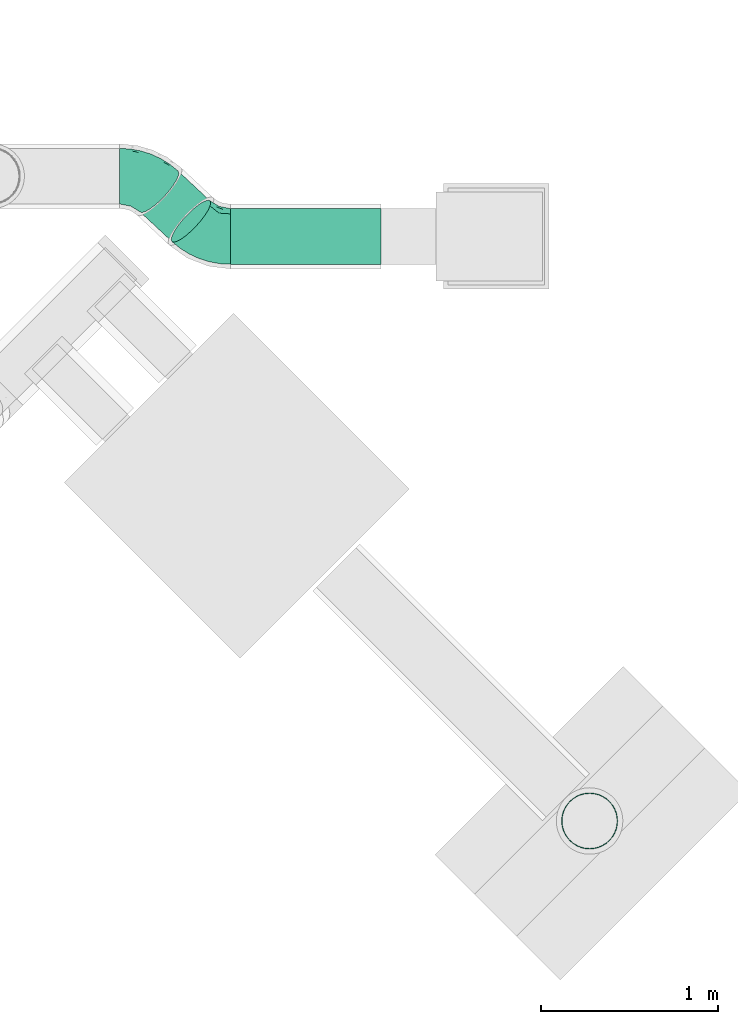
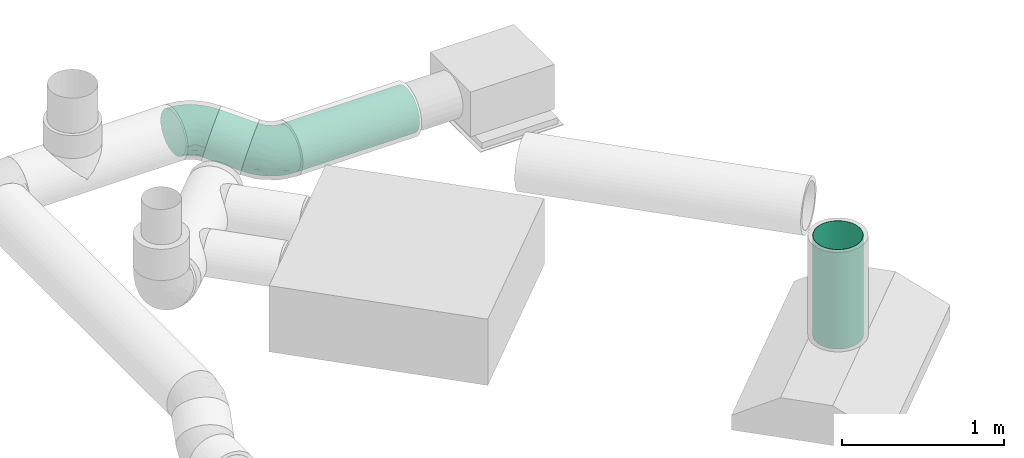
# One storey, part 8 of 12: 3 flow segments, 2 flow fittings.
"""IFC2X3 building model written with IfcOpenShell, lengths in millimetres."""

from ifc_helpers import new_model, entity, si_unit, converted_unit, derived_unit, direction, frame, origin_with_axes, origin_2d_with_axis, place, context, subcontext, project, spatial, hollow_circle, extrude, open_shell, surface_model, source, transform, mapped, type_object, element, save


model = new_model("IFC2X3")

# Units and contexts
model_context = context("Model", 3, precision=0.01, world=frame((0.0, 4.29681676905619e-09, 0.0)), true_north=direction((4.01073788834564e-13, 1.0)))
plan_context = context("Plan", 3, precision=0.01, world=frame((0.0, 4.29681676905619e-09, 0.0)), true_north=direction((4.01073788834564e-13, 1.0)))
body_context = subcontext(model_context, "Body", "Model", "MODEL_VIEW")
ifc_project = project(units=[converted_unit("PLANEANGLEUNIT", "DEGREE", entity("IfcPositiveLengthMeasure", 0.0174532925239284), si_unit("PLANEANGLEUNIT", "RADIAN"), dimensions=[0, 0, 0, 0, 0, 0, 0]), si_unit("AREAUNIT", "SQUARE_METRE"), si_unit("LENGTHUNIT", "METRE", prefix="MILLI"), si_unit("MASSUNIT", "GRAM", prefix="KILO"), si_unit("POWERUNIT", "WATT"), si_unit("PRESSUREUNIT", "PASCAL", prefix="KILO"), si_unit("FORCEUNIT", "NEWTON", prefix="KILO"), si_unit("ELECTRICVOLTAGEUNIT", "VOLT"), si_unit("ELECTRICCURRENTUNIT", "AMPERE"), si_unit("THERMODYNAMICTEMPERATUREUNIT", "DEGREE_CELSIUS"), si_unit("TIMEUNIT", "SECOND"), si_unit("VOLUMEUNIT", "CUBIC_METRE"), derived_unit("LINEARVELOCITYUNIT", [(si_unit("LENGTHUNIT", "METRE"), 1), (si_unit("TIMEUNIT", "SECOND"), -1)]), derived_unit("VOLUMETRICFLOWRATEUNIT", [(si_unit("VOLUMEUNIT", "CUBIC_METRE"), 1), (si_unit("TIMEUNIT", "SECOND"), -1)]), derived_unit("THERMALTRANSMITTANCEUNIT", [(si_unit("POWERUNIT", "WATT"), 1), (si_unit("THERMODYNAMICTEMPERATUREUNIT", "KELVIN"), -1), (si_unit("AREAUNIT", "SQUARE_METRE"), -1)]), derived_unit("SOUNDPRESSUREUNIT", [(si_unit("PRESSUREUNIT", "PASCAL"), 1)])], contexts=[model_context, plan_context])

# Site, building, storey
site_placement = place(None, frame((0.0, -4.29681676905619e-09, 0.0), z_axis=(0.0, 0.0, 1.0), x_axis=(1.0, 0.0, 0.0)))
site = spatial("IfcSite", under=ifc_project, at=site_placement, CompositionType="ELEMENT")
building_placement = place(site_placement, frame((0.0, 4.29681676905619e-09, 0.0), z_axis=(0.0, 0.0, 1.0), x_axis=(1.0, 0.0, 0.0)))
building = spatial("IfcBuilding", under=site, at=building_placement, Name="mc-building", CompositionType="ELEMENT")
storey_placement = place(building_placement, frame((0.0, 0.0, 204000.0), z_axis=(0.0, 0.0, 1.0), x_axis=(1.0, 0.0, 0.0)))
storey = spatial("IfcBuildingStorey", under=building, at=storey_placement, Name="Nivå D", CompositionType="ELEMENT", Elevation=204000.0)

# Flow fittings
duct_fitting_type = type_object("IfcDuctFittingType", Name="magicirc_elbow_full_radius_001", PredefinedType="BEND")
shared_shape_1 = source(origin_with_axes(), body_context, "Body", "SurfaceModel", [
    surface_model("IfcShellBasedSurfaceModel", [(-130.47727, 78.75, -136.39901), (-130.47727, 40.764, -152.13332), (-130.47727, 0.0, -157.5), (-130.47727, 136.39901, -78.75), (-130.47727, -40.764, -152.13332), (-130.47727, 111.36932, -111.36932), (-130.47727, -157.5, 0.0), (-130.47727, -152.13332, 40.764), (-130.47727, -111.36932, -111.36932), (-130.47727, -152.13332, -40.764), (-130.47727, -78.75, -136.39901), (-130.47727, -136.39901, -78.75), (-130.47727, 152.13332, -40.764), (-130.47727, 157.5, 0.0), (-130.47727, 152.13332, 40.764), (-130.47727, 136.39901, 78.75), (-130.47727, 111.36932, 111.36932), (-130.47727, 78.75, 136.39901), (-130.47727, 40.764, 152.13332), (-130.47727, -111.36932, 111.36932), (-130.47727, -78.75, 136.39901), (-130.47727, -136.39901, 78.75), (-130.47727, 0.0, 157.5), (-130.47727, -40.764, 152.13332), (92.26137, 92.26137, -157.5), (63.43686, 121.08587, -152.13332), (36.57671, 147.94602, -136.39901), (121.08587, 63.43686, -152.13332), (-4.18729, 188.71003, -78.75), (13.51136, 171.01136, -111.36932), (13.51136, 171.01136, 111.36932), (203.63068, -19.10795, 0.0), (171.01136, 13.51136, -111.36932), (147.94602, 36.57671, -136.39901), (199.83586, -15.31314, -40.764), (188.71003, -4.18729, -78.75), (-15.31314, 199.83586, -40.764), (-19.10795, 203.63068, 0.0), (-15.31314, 199.83586, 40.764), (-4.18729, 188.71003, 78.75), (199.83586, -15.31314, 40.764), (36.57671, 147.94602, 136.39901), (63.43686, 121.08587, 152.13332), (188.71003, -4.18729, 78.75), (147.94602, 36.57671, 136.39901), (171.01136, 13.51136, 111.36932), (92.26137, 92.26137, 157.5), (121.08587, 63.43686, 152.13332), (-90.31824, -62.89797, 143.44996), (-72.27875, -23.25773, 154.94979), (-56.56199, -151.68274, 0.0), (-70.62575, -144.42219, 53.02885), (-91.264, -154.41385, 0.0), (-89.63351, -126.15228, 91.7184), (-69.33391, -97.41309, 120.07653), (-16.38997, -97.78481, 109.44527), (-40.47078, -60.22037, 140.65724), (-39.28412, -122.29161, 86.38044), (152.5836, -25.82267, 91.71841), (-81.87175, 17.75633, 156.89351), (67.55449, 34.66309, 154.94979), (45.33645, 70.44769, 156.89351), (19.44546, -106.17047, 85.82993), (-9.83286, -133.58825, 49.47276), (46.24417, -111.64335, 57.07322), (101.41402, -87.50829, 49.47275), (152.06186, -52.18197, 53.02885), (114.25128, -58.69516, 86.38044), (-3.65855, 130.02911, 128.74157), (-83.53697, 125.9293, 101.78766), (-89.35748, 94.53145, 128.74157), (-72.45165, 58.76305, 148.57173), (-42.27491, 102.06066, 132.90326), (-34.80211, 144.57687, 102.52932), (71.19939, -13.96507, 140.65724), (20.14269, -6.20589, 152.39698), (-29.92035, 72.23411, 148.58687), (9.6793, 92.78281, 148.57173), (-66.76397, 161.18248, 52.45275), (-89.71327, 162.86668, 0.0), (-51.72727, 178.601, 0.0), (115.64225, -86.63056, 0.0), (49.78325, -120.1874, 0.0), (84.03324, -106.00058, 0.0), (66.8953, -111.32944, 29.0342), (66.95497, -86.10086, 85.82994), (108.34022, 19.38906, 143.44996), (21.01822, -47.55911, 136.8648), (32.83795, -79.27786, 110.97397), (80.23571, -55.72758, 111.31288), (-99.24246, 146.38754, 64.87357), (173.72046, -44.65369, 0.0), (117.90794, -19.85497, 120.07653), (-11.3948, 27.50947, 157.45362), (-66.77072, 146.456, 81.42725), (-35.48483, 168.38694, 71.56288), (-24.4967, -27.0546, 151.48903), (-44.47795, 2.85402, 157.2553), (29.43256, 33.46875, 157.2553), (26.71905, -127.11627, 31.92385), (-20.51436, -143.02847, 0.0), (147.25126, -67.26053, 0.0), (15.53326, -134.3742, 0.0), (-89.35749, 94.53145, -128.74157), (31.41968, -126.02392, -29.0342), (13.53818, -108.22682, -85.82992), (-17.32987, -96.14058, -111.31287), (32.83796, -79.27786, -110.97396), (108.34022, 19.38906, -143.44996), (67.55449, 34.66308, -154.94979), (-72.45166, 58.76305, -148.57173), (9.67929, 92.78279, -148.57174), (-81.87176, 17.75632, -156.89351), (-66.76398, 161.18248, -52.45275), (-93.97599, 144.15911, -71.56287), (-77.62248, 126.84009, -102.52932), (-42.27492, 102.06066, -132.90325), (-40.47078, -60.22037, -140.65723), (-72.27875, -23.25774, -154.94979), (-9.85481, -18.63127, -152.39698), (-70.62574, -144.42219, -53.02885), (-89.63351, -126.15228, -91.7184), (-29.92036, 72.23411, -148.58687), (-44.47795, 2.85401, -157.2553), (-69.33391, -97.41309, -120.07653), (46.24419, -111.64335, -57.07321), (61.32383, -88.82388, -85.82992), (-90.31824, -62.89797, -143.44996), (152.06185, -52.18197, -53.02885), (101.41403, -87.50828, -49.47276), (114.25129, -58.69516, -86.38043), (18.76725, -48.49151, -136.86479), (-56.34601, 150.77405, -81.42725), (117.90794, -19.85498, -120.07653), (71.19939, -13.96508, -140.65723), (-9.83285, -133.58825, -49.47276), (-39.28411, -122.29161, -86.38043), (-29.97591, 148.11501, -101.78766), (-33.33661, 173.68664, -64.87357), (-3.65856, 130.02911, -128.74157), (152.5836, -25.82267, -91.7184), (45.33645, 70.44768, -156.89351), (80.73375, -57.55486, -109.44526), (-11.3948, 27.50946, -157.45362), (36.45227, -1.80872, -151.48903), (29.43256, 33.46875, -157.2553), (70.99154, -108.778, -31.92385)], [open_shell([[[0, 1, 2]], [[3, 0, 2]], [[4, 3, 2]], [[5, 0, 3]], [[3, 6, 7]], [[8, 9, 10]], [[4, 10, 6]], [[11, 9, 8]], [[6, 10, 9]], [[6, 3, 4]], [[7, 12, 3]], [[13, 7, 14]], [[15, 14, 16]], [[17, 16, 7]], [[7, 16, 14]], [[7, 18, 17]], [[19, 20, 21]], [[7, 21, 22]], [[23, 22, 20]], [[21, 20, 22]], [[22, 18, 7]], [[12, 7, 13]], [[24, 25, 26]], [[27, 24, 26]], [[26, 28, 27]], [[28, 26, 29]], [[28, 30, 31]], [[27, 32, 33]], [[32, 27, 34]], [[32, 34, 35]], [[34, 27, 31]], [[27, 28, 31]], [[28, 36, 37]], [[28, 38, 30]], [[30, 38, 39]], [[40, 30, 41]], [[30, 40, 31]], [[41, 42, 43]], [[43, 44, 45]], [[43, 40, 41]], [[44, 46, 47]], [[46, 44, 43]], [[42, 46, 43]], [[38, 28, 37]], [[48, 49, 23]], [[50, 51, 52]], [[19, 21, 53]], [[54, 55, 56]], [[53, 51, 57]], [[45, 58, 43]], [[54, 20, 19]], [[59, 22, 49]], [[60, 46, 61]], [[19, 53, 54]], [[23, 20, 48]], [[62, 63, 64]], [[65, 66, 67]], [[41, 30, 68]], [[16, 69, 15]], [[70, 71, 72]], [[21, 7, 51]], [[69, 72, 73]], [[18, 22, 59]], [[74, 60, 75]], [[72, 76, 77]], [[14, 78, 79]], [[76, 72, 71]], [[79, 13, 14]], [[80, 78, 38]], [[46, 42, 61]], [[70, 16, 17]], [[66, 65, 81]], [[82, 83, 84]], [[64, 85, 62]], [[47, 86, 44]], [[23, 49, 22]], [[87, 74, 75]], [[86, 60, 74]], [[43, 66, 40]], [[88, 85, 89]], [[14, 15, 90]], [[66, 91, 40]], [[17, 18, 71]], [[44, 92, 45]], [[60, 47, 46]], [[66, 43, 58]], [[85, 88, 62]], [[51, 63, 57]], [[59, 93, 71]], [[79, 78, 80]], [[78, 94, 95]], [[37, 80, 38]], [[49, 96, 97]], [[38, 78, 95]], [[90, 69, 94]], [[39, 73, 30]], [[48, 54, 56]], [[68, 73, 72]], [[98, 60, 61]], [[77, 42, 41]], [[41, 68, 77]], [[55, 57, 62]], [[51, 7, 52]], [[92, 67, 58]], [[99, 63, 100]], [[60, 98, 75]], [[86, 92, 44]], [[74, 87, 89]], [[85, 65, 67]], [[71, 93, 76]], [[69, 16, 70]], [[90, 94, 78]], [[42, 77, 61]], [[93, 61, 77]], [[97, 59, 49]], [[71, 18, 59]], [[75, 93, 97]], [[87, 88, 89]], [[71, 70, 17]], [[69, 70, 72]], [[73, 68, 30]], [[77, 68, 72]], [[65, 83, 81]], [[99, 84, 64]], [[82, 84, 99]], [[84, 83, 65]], [[96, 87, 75]], [[55, 87, 56]], [[60, 86, 47]], [[92, 86, 74]], [[54, 48, 20]], [[49, 48, 56]], [[51, 53, 21]], [[54, 53, 57]], [[92, 58, 45]], [[66, 58, 67]], [[69, 90, 15]], [[78, 14, 90]], [[69, 73, 94]], [[95, 73, 39]], [[73, 95, 94]], [[38, 95, 39]], [[7, 6, 52]], [[91, 66, 101]], [[91, 31, 40]], [[93, 77, 76]], [[63, 99, 64]], [[101, 66, 81]], [[65, 64, 84]], [[51, 100, 63]], [[82, 99, 102]], [[65, 85, 64]], [[89, 67, 92]], [[67, 89, 85]], [[74, 89, 92]], [[55, 62, 88]], [[63, 62, 57]], [[55, 88, 87]], [[54, 57, 55]], [[61, 93, 98]], [[75, 98, 93]], [[49, 56, 96]], [[93, 59, 97]], [[87, 96, 56]], [[75, 97, 96]], [[100, 51, 50]], [[102, 99, 100]], [[103, 0, 5]], [[104, 82, 102]], [[105, 106, 107]], [[108, 109, 27]], [[0, 103, 110]], [[26, 25, 111]], [[13, 79, 12]], [[2, 1, 112]], [[12, 79, 113]], [[12, 113, 114]], [[115, 116, 103]], [[27, 109, 24]], [[117, 118, 119]], [[1, 0, 110]], [[120, 11, 121]], [[116, 122, 110]], [[120, 52, 9]], [[118, 123, 119]], [[124, 8, 10]], [[125, 105, 126]], [[127, 10, 4]], [[128, 129, 130]], [[117, 131, 106]], [[120, 9, 11]], [[118, 117, 127]], [[8, 121, 11]], [[113, 132, 114]], [[122, 116, 111]], [[79, 80, 113]], [[108, 133, 134]], [[80, 37, 36]], [[135, 120, 136]], [[29, 137, 28]], [[28, 138, 36]], [[118, 4, 2]], [[115, 137, 116]], [[139, 29, 26]], [[140, 32, 35]], [[112, 118, 2]], [[25, 24, 141]], [[3, 115, 5]], [[111, 116, 139]], [[35, 34, 128]], [[108, 27, 33]], [[133, 33, 32]], [[131, 117, 119]], [[138, 137, 132]], [[129, 125, 126]], [[10, 127, 124]], [[32, 140, 133]], [[130, 140, 128]], [[141, 24, 109]], [[128, 91, 101]], [[121, 124, 136]], [[123, 118, 112]], [[134, 133, 142]], [[120, 135, 100]], [[105, 107, 126]], [[141, 143, 111]], [[113, 80, 36]], [[142, 130, 126]], [[109, 144, 145]], [[128, 34, 91]], [[146, 129, 81]], [[105, 135, 136]], [[34, 31, 91]], [[137, 29, 139]], [[138, 132, 113]], [[1, 110, 112]], [[143, 112, 110]], [[145, 141, 109]], [[111, 25, 141]], [[119, 143, 145]], [[131, 107, 106]], [[115, 103, 5]], [[110, 103, 116]], [[111, 139, 26]], [[137, 139, 116]], [[135, 102, 100]], [[146, 104, 125]], [[82, 104, 146]], [[104, 102, 135]], [[144, 131, 119]], [[142, 131, 134]], [[118, 127, 4]], [[124, 127, 117]], [[133, 108, 33]], [[109, 108, 134]], [[128, 140, 35]], [[133, 140, 130]], [[124, 121, 8]], [[120, 121, 136]], [[137, 138, 28]], [[113, 36, 138]], [[137, 115, 132]], [[114, 115, 3]], [[115, 114, 132]], [[12, 114, 3]], [[52, 120, 50]], [[52, 6, 9]], [[111, 143, 122]], [[143, 110, 122]], [[104, 135, 125]], [[120, 100, 50]], [[125, 129, 146]], [[128, 81, 129]], [[82, 146, 83]], [[135, 105, 125]], [[106, 136, 124]], [[136, 106, 105]], [[117, 106, 124]], [[142, 126, 107]], [[129, 126, 130]], [[142, 107, 131]], [[133, 130, 142]], [[112, 143, 123]], [[119, 123, 143]], [[109, 134, 144]], [[143, 141, 145]], [[131, 144, 134]], [[119, 145, 144]], [[81, 128, 101]], [[83, 146, 81]]])]),
])
for number, where, z_axis, x_axis, name in (
    (1, (598181.52273, 404386.04214, 2800.0), (-1.05415510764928e-08, -0.361159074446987, 0.932504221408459), (-0.707106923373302, 0.659379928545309, 0.255377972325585), "magicirc_elbow_full_radius_001"),
    (2, (598545.62797, 404046.5125, 2668.5), (-1.05415510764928e-08, -0.361159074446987, 0.932504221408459), (0.707106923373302, -0.659379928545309, -0.255377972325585), "magicirc_elbow_full_radius_001"),
):
    element("IfcFlowFitting", number, at=place(storey_placement, frame(where, z_axis=z_axis, x_axis=x_axis)), inside=storey, type_object=duct_fitting_type, Name=name, context=body_context, shape_type="MappedRepresentation", body=[
        mapped(shared_shape_1, transform((0.0, 0.0, 0.0), scale=1.0)),
    ])

# Flow segments
duct_segment_type = type_object("IfcDuctSegmentType", Name="KK001T - Spiro kanaler, Forsinket stål", PredefinedType="RIGIDSEGMENT")
shared_shape_2 = source(origin_with_axes(), body_context, "Body", "SweptSolid", [
    extrude(hollow_circle(Radius=157.5, WallThickness=2.0, at=origin_2d_with_axis()), frame((0.0, 0.0, 0.0), z_axis=(1.0, 0.0, 0.0), x_axis=(0.0, 1.0, 0.0)), (0.0, 0.0, 1.0), 751.0),
])
flow_segment_1_placement = place(storey_placement, frame((600701.00455, 400750.8939, 3301.0), z_axis=(0.0, -1.0, 0.0), x_axis=(0.0, 0.0, -1.0)))
element("IfcFlowSegment", 3, at=flow_segment_1_placement, inside=storey, type_object=duct_segment_type, Name="KK001T - Spiro kanaler, Forsinket stål", context=body_context, shape_type="MappedRepresentation", body=[
    mapped(shared_shape_2, transform((0.0, 0.0, 0.0), scale=1.0)),
])
shared_shape_3 = source(origin_with_axes(), body_context, "Body", "SweptSolid", [
    extrude(hollow_circle(Radius=157.5, WallThickness=2.0, at=origin_2d_with_axis()), frame((0.0, 0.0, 0.0), z_axis=(1.0, 0.0, 0.0), x_axis=(0.0, 1.0, 0.0)), (0.0, 0.0, 1.0), 848.4),
])
flow_segment_2_placement = place(storey_placement, frame((599524.5, 404046.5125, 2668.5), z_axis=(0.0, 0.932504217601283, 0.361159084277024), x_axis=(-1.0, 0.0, 0.0)))
element("IfcFlowSegment", 4, at=flow_segment_2_placement, inside=storey, type_object=duct_segment_type, Name="KK001T - Spiro kanaler, Forsinket stål", context=body_context, shape_type="MappedRepresentation", body=[
    mapped(shared_shape_3, transform((0.0, 0.0, 0.0), scale=1.0)),
])
shared_shape_4 = source(origin_with_axes(), body_context, "Body", "SweptSolid", [
    extrude(hollow_circle(Radius=157.5, WallThickness=2.0, at=origin_2d_with_axis()), frame((0.0, 0.0, 0.0), z_axis=(1.0, 0.0, 0.0), x_axis=(0.0, 1.0, 0.0)), (0.0, 0.0, 1.0), 254.0),
])
flow_segment_3_placement = place(storey_placement, frame((598273.78409, 404300.00804, 2766.67895), z_axis=(0.707106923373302, 0.659379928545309, 0.255377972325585), x_axis=(0.707106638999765, -0.659380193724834, -0.255378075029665)))
element("IfcFlowSegment", 5, at=flow_segment_3_placement, inside=storey, type_object=duct_segment_type, Name="KK001T - Spiro kanaler, Forsinket stål", context=body_context, shape_type="MappedRepresentation", body=[
    mapped(shared_shape_4, transform((0.0, 0.0, 0.0), scale=1.0)),
])

save(model, "model.ifc")
